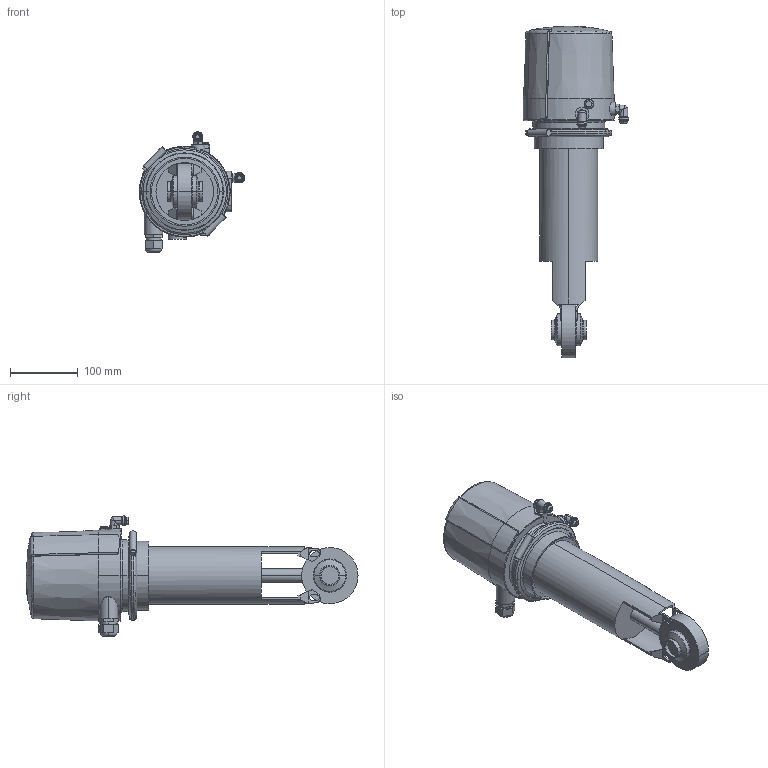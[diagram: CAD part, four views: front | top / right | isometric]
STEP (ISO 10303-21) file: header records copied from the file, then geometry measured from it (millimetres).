
FILE_DESCRIPTION(('Creo Elements/Direct Modeling STEP Export'),'2;1');
FILE_NAME('SV1-25-CU4-12S.stp','2013-02-21T13:05:38',(''),(''),'Creo Elements/Direct Modeling STEP processor for AP214 (Solid Model)','Creo Elements/Direct Modeling 17.0D 15-Jul-2011 (C) Parametric Technology GmbH','');
FILE_SCHEMA(('AUTOMOTIVE_DESIGN { 1 0 10303 214 1 1 1 1 }'));
Length unit declared in the file: millimetre
Products named in the file (3): SV1-25-FZ-12S; CU41-mit-T-Adapter; SV1-25-CU4-12S.stp
Assembly tree (2 placements, depth 2):
  SV1-25-CU4-12S.stp
    CU41-mit-T-Adapter
    SV1-25-FZ-12S
Bounding box: 155.4 x 489.56 x 177.6 mm (x, y, z)
Volume: 3239918.9 mm3; surface area: 237067.6 mm2
Topology: 2 solids, 8 shells, 451 faces, 1141 edges, 719 vertices
Faces by surface type: plane 209, cylinder 139, torus 47, cone 40, bspline 10, sphere 6
Entity records: 21461 total; most frequent: CARTESIAN_POINT 10380, ORIENTED_EDGE 2294, DIRECTION 2009, EDGE_CURVE 1139, AXIS2_PLACEMENT_3D 765, VERTEX_POINT 719, EDGE_LOOP 500, VECTOR 479
